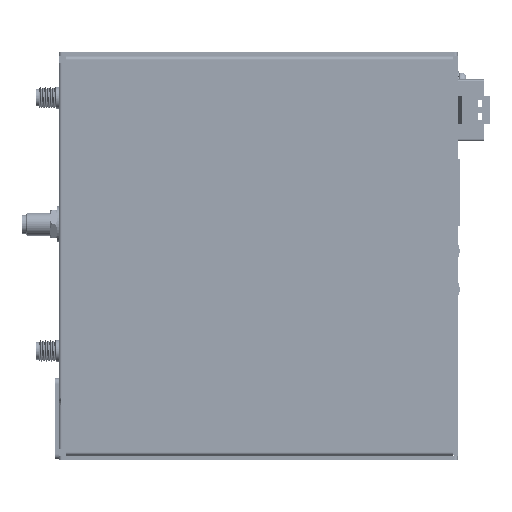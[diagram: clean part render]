
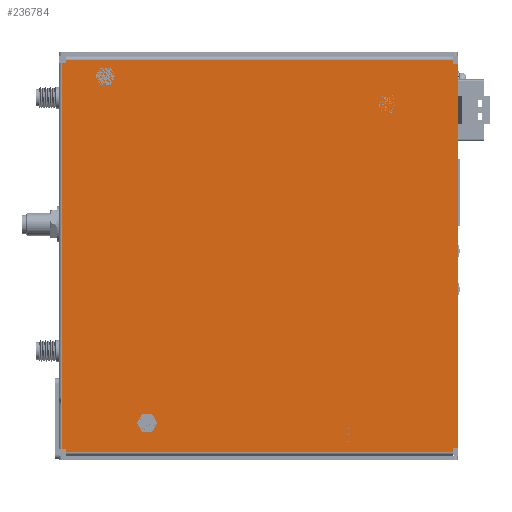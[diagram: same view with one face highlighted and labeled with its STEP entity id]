
A CAD part, left-side view. The second image highlights one B-rep face of the part: STEP entity #236784.
In plain terms, the highlighted planar face has unit normal (-1, 0, 0) as drawn and (0, -1, 0) by its records, which use the part's own axes.
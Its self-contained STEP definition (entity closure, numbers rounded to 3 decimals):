
#1545 = ORIENTED_EDGE ( 'NONE', *, *, #74751, .F. ) ;
#4323 = DIRECTION ( 'NONE',  ( 0., 0., -1. ) ) ;
#4613 = DIRECTION ( 'NONE',  ( 0., 0., 1. ) ) ;
#10446 = EDGE_CURVE ( 'NONE', #144990, #111487, #467765, .T. ) ;
#12342 = CARTESIAN_POINT ( 'NONE',  ( 2.2, 0., 0. ) ) ;
#31524 = CARTESIAN_POINT ( 'NONE',  ( 0., 0., -111.5 ) ) ;
#34403 = CARTESIAN_POINT ( 'NONE',  ( 0., 0., 0. ) ) ;
#38817 = ORIENTED_EDGE ( 'NONE', *, *, #380272, .T. ) ;
#39430 = DIRECTION ( 'NONE',  ( 0., -1., 0. ) ) ;
#41952 = EDGE_CURVE ( 'NONE', #124242, #569384, #447090, .T. ) ;
#43742 = DIRECTION ( 'NONE',  ( 1., 0., 0. ) ) ;
#52633 = EDGE_CURVE ( 'NONE', #111487, #549287, #482221, .T. ) ;
#61594 = ORIENTED_EDGE ( 'NONE', *, *, #130929, .F. ) ;
#62685 = EDGE_CURVE ( 'NONE', #110011, #367133, #502992, .T. ) ;
#65868 = EDGE_CURVE ( 'NONE', #569384, #497775, #533420, .T. ) ;
#73006 = DIRECTION ( 'NONE',  ( -1., 0., 0. ) ) ;
#74751 = EDGE_CURVE ( 'NONE', #110011, #497775, #418834, .T. ) ;
#83024 = DIRECTION ( 'NONE',  ( -1., 0., 0. ) ) ;
#93795 = VECTOR ( 'NONE', #387788, 1000. ) ;
#93996 = CARTESIAN_POINT ( 'NONE',  ( 99.15, 0., -112.5 ) ) ;
#95757 = ORIENTED_EDGE ( 'NONE', *, *, #320650, .F. ) ;
#102265 = AXIS2_PLACEMENT_3D ( 'NONE', #374436, #39430, #187839 ) ;
#104187 = VECTOR ( 'NONE', #4613, 1000. ) ;
#106928 = CARTESIAN_POINT ( 'NONE',  ( 111.4, 0., 0. ) ) ;
#110011 = VERTEX_POINT ( 'NONE', #618822 ) ;
#111487 = VERTEX_POINT ( 'NONE', #160653 ) ;
#122511 = LINE ( 'NONE', #470063, #441118 ) ;
#124027 = CARTESIAN_POINT ( 'NONE',  ( 111.4, 0., -1.2 ) ) ;
#124242 = VERTEX_POINT ( 'NONE', #407171 ) ;
#125042 = CARTESIAN_POINT ( 'NONE',  ( 0., 0., -1.2 ) ) ;
#125173 = EDGE_CURVE ( 'NONE', #388009, #222504, #335785, .T. ) ;
#130929 = EDGE_CURVE ( 'NONE', #490158, #332890, #378797, .T. ) ;
#140520 = LINE ( 'NONE', #191026, #337976 ) ;
#144990 = VERTEX_POINT ( 'NONE', #156750 ) ;
#156750 = CARTESIAN_POINT ( 'NONE',  ( 1., 0., -111.5 ) ) ;
#160514 = LINE ( 'NONE', #106928, #220961 ) ;
#160653 = CARTESIAN_POINT ( 'NONE',  ( 2., 0., -111.5 ) ) ;
#165779 = VECTOR ( 'NONE', #317874, 1000. ) ;
#187817 = CARTESIAN_POINT ( 'NONE',  ( 111.4, 0., 0. ) ) ;
#187839 = DIRECTION ( 'NONE',  ( 0., 0., -1. ) ) ;
#191026 = CARTESIAN_POINT ( 'NONE',  ( 0., 0., -112.5 ) ) ;
#202063 = DIRECTION ( 'NONE',  ( 0., 0., -1. ) ) ;
#207541 = EDGE_CURVE ( 'NONE', #124242, #388009, #140520, .T. ) ;
#220961 = VECTOR ( 'NONE', #353352, 1000. ) ;
#222504 = VERTEX_POINT ( 'NONE', #532414 ) ;
#224662 = CARTESIAN_POINT ( 'NONE',  ( 2., 0., -112.5 ) ) ;
#232149 = FACE_OUTER_BOUND ( 'NONE', #521207, .T. ) ;
#232168 = DIRECTION ( 'NONE',  ( -1., 0., 0. ) ) ;
#236784 = ADVANCED_FACE ( 'NONE', ( #232149 ), #421952, .T. ) ;
#241862 = CARTESIAN_POINT ( 'NONE',  ( 2., 0., 0. ) ) ;
#260853 = VERTEX_POINT ( 'NONE', #300747 ) ;
#269119 = VERTEX_POINT ( 'NONE', #564302 ) ;
#276962 = VECTOR ( 'NONE', #73006, 1000. ) ;
#283265 = VECTOR ( 'NONE', #561748, 1000. ) ;
#288429 = CARTESIAN_POINT ( 'NONE',  ( 112.6, 0., -111.5 ) ) ;
#295561 = ORIENTED_EDGE ( 'NONE', *, *, #10446, .T. ) ;
#298559 = ORIENTED_EDGE ( 'NONE', *, *, #62685, .T. ) ;
#300747 = CARTESIAN_POINT ( 'NONE',  ( 1., 0., -1.2 ) ) ;
#306658 = ORIENTED_EDGE ( 'NONE', *, *, #398811, .T. ) ;
#310161 = CARTESIAN_POINT ( 'NONE',  ( 0., 0., -1.2 ) ) ;
#317874 = DIRECTION ( 'NONE',  ( -1., 0., 0. ) ) ;
#320650 = EDGE_CURVE ( 'NONE', #144990, #260853, #612312, .T. ) ;
#323334 = CARTESIAN_POINT ( 'NONE',  ( 99.15, 0., -112.5 ) ) ;
#332890 = VERTEX_POINT ( 'NONE', #187817 ) ;
#335785 = LINE ( 'NONE', #323334, #449003 ) ;
#337976 = VECTOR ( 'NONE', #232168, 1000. ) ;
#340415 = CARTESIAN_POINT ( 'NONE',  ( 0., 0., -111.5 ) ) ;
#343457 = VECTOR ( 'NONE', #4323, 1000. ) ;
#344347 = LINE ( 'NONE', #12342, #422559 ) ;
#345966 = CARTESIAN_POINT ( 'NONE',  ( 111.6, 0., 0. ) ) ;
#353352 = DIRECTION ( 'NONE',  ( 0., 0., 1. ) ) ;
#367133 = VERTEX_POINT ( 'NONE', #124027 ) ;
#368003 = ORIENTED_EDGE ( 'NONE', *, *, #125173, .F. ) ;
#374436 = CARTESIAN_POINT ( 'NONE',  ( 0., 0., 0. ) ) ;
#378797 = LINE ( 'NONE', #34403, #538052 ) ;
#380272 = EDGE_CURVE ( 'NONE', #367133, #332890, #160514, .T. ) ;
#387788 = DIRECTION ( 'NONE',  ( 1., 0., 0. ) ) ;
#388009 = VERTEX_POINT ( 'NONE', #93996 ) ;
#398811 = EDGE_CURVE ( 'NONE', #490158, #269119, #344347, .T. ) ;
#407171 = CARTESIAN_POINT ( 'NONE',  ( 111.6, 0., -112.5 ) ) ;
#407686 = CARTESIAN_POINT ( 'NONE',  ( 111.6, 0., -111.5 ) ) ;
#413510 = VECTOR ( 'NONE', #434720, 1000. ) ;
#418834 = LINE ( 'NONE', #570667, #343457 ) ;
#421952 = PLANE ( 'NONE',  #102265 ) ;
#422559 = VECTOR ( 'NONE', #202063, 1000. ) ;
#434720 = DIRECTION ( 'NONE',  ( 0., 0., -1. ) ) ;
#441118 = VECTOR ( 'NONE', #606446, 1000. ) ;
#443233 = VECTOR ( 'NONE', #607241, 1000. ) ;
#447090 = LINE ( 'NONE', #345966, #104187 ) ;
#449003 = VECTOR ( 'NONE', #83024, 1000. ) ;
#466374 = LINE ( 'NONE', #125042, #165779 ) ;
#467765 = LINE ( 'NONE', #31524, #443233 ) ;
#470063 = CARTESIAN_POINT ( 'NONE',  ( 0., 0., -112.5 ) ) ;
#482221 = LINE ( 'NONE', #241862, #413510 ) ;
#485929 = ORIENTED_EDGE ( 'NONE', *, *, #500631, .F. ) ;
#490158 = VERTEX_POINT ( 'NONE', #559148 ) ;
#497775 = VERTEX_POINT ( 'NONE', #288429 ) ;
#500631 = EDGE_CURVE ( 'NONE', #222504, #549287, #122511, .T. ) ;
#502992 = LINE ( 'NONE', #310161, #276962 ) ;
#508806 = ORIENTED_EDGE ( 'NONE', *, *, #207541, .F. ) ;
#521207 = EDGE_LOOP ( 'NONE', ( #1545, #298559, #38817, #61594, #306658, #609269, #95757, #295561, #581301, #485929, #368003, #508806, #623324, #581193 ) ) ;
#532414 = CARTESIAN_POINT ( 'NONE',  ( 97.15, 0., -112.5 ) ) ;
#533420 = LINE ( 'NONE', #340415, #93795 ) ;
#538052 = VECTOR ( 'NONE', #43742, 1000. ) ;
#549287 = VERTEX_POINT ( 'NONE', #224662 ) ;
#559148 = CARTESIAN_POINT ( 'NONE',  ( 2.2, 0., 0. ) ) ;
#561748 = DIRECTION ( 'NONE',  ( 0., 0., 1. ) ) ;
#564302 = CARTESIAN_POINT ( 'NONE',  ( 2.2, 0., -1.2 ) ) ;
#569384 = VERTEX_POINT ( 'NONE', #407686 ) ;
#570667 = CARTESIAN_POINT ( 'NONE',  ( 112.6, 0., 0. ) ) ;
#571087 = CARTESIAN_POINT ( 'NONE',  ( 1., 0., 0. ) ) ;
#581193 = ORIENTED_EDGE ( 'NONE', *, *, #65868, .T. ) ;
#581301 = ORIENTED_EDGE ( 'NONE', *, *, #52633, .T. ) ;
#606446 = DIRECTION ( 'NONE',  ( -1., 0., 0. ) ) ;
#607241 = DIRECTION ( 'NONE',  ( 1., 0., 0. ) ) ;
#609269 = ORIENTED_EDGE ( 'NONE', *, *, #623930, .T. ) ;
#612312 = LINE ( 'NONE', #571087, #283265 ) ;
#618822 = CARTESIAN_POINT ( 'NONE',  ( 112.6, 0., -1.2 ) ) ;
#623324 = ORIENTED_EDGE ( 'NONE', *, *, #41952, .T. ) ;
#623930 = EDGE_CURVE ( 'NONE', #269119, #260853, #466374, .T. ) ;
